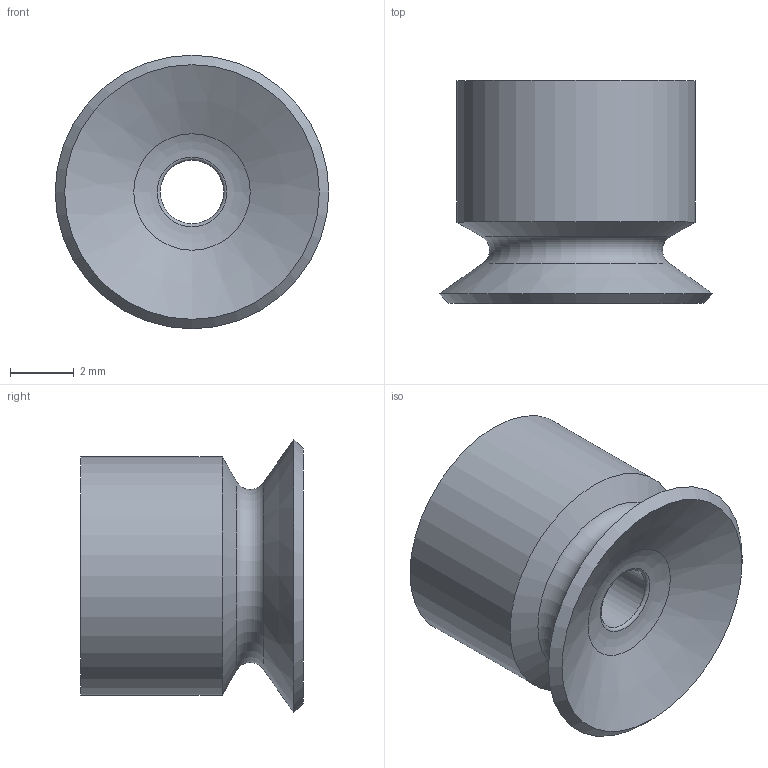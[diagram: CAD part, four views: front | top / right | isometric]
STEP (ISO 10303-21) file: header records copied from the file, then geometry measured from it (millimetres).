
FILE_DESCRIPTION(('STEP AP203'),'1');
FILE_NAME('_3D.stp','2024-06-11T23:34:56',(' '),(' '),'Spatial InterOp 3D',' ',' ');
FILE_SCHEMA(('CONFIG_CONTROL_DESIGN'));
Length unit declared in the file: millimetre
Products named in the file (1): 1
Bounding box: 8.6 x 7 x 8.6 mm (x, y, z)
Volume: 172.9 mm3; surface area: 378.4 mm2
Topology: 1 solids, 1 shells, 19 faces, 42 edges, 26 vertices
Faces by surface type: torus 7, cylinder 4, cone 4, plane 3, bspline 1
Full cylindrical faces by diameter (mm): 2 x1, 4 x1, 6 x1, 7.5 x1
Entity records: 455 total; most frequent: CARTESIAN_POINT 85, DIRECTION 76, AXIS2_PLACEMENT_3D 38, EDGE_LOOP 38, ORIENTED_EDGE 38, FACE_OUTER_BOUND 31, ADVANCED_FACE 19, EDGE_CURVE 19
